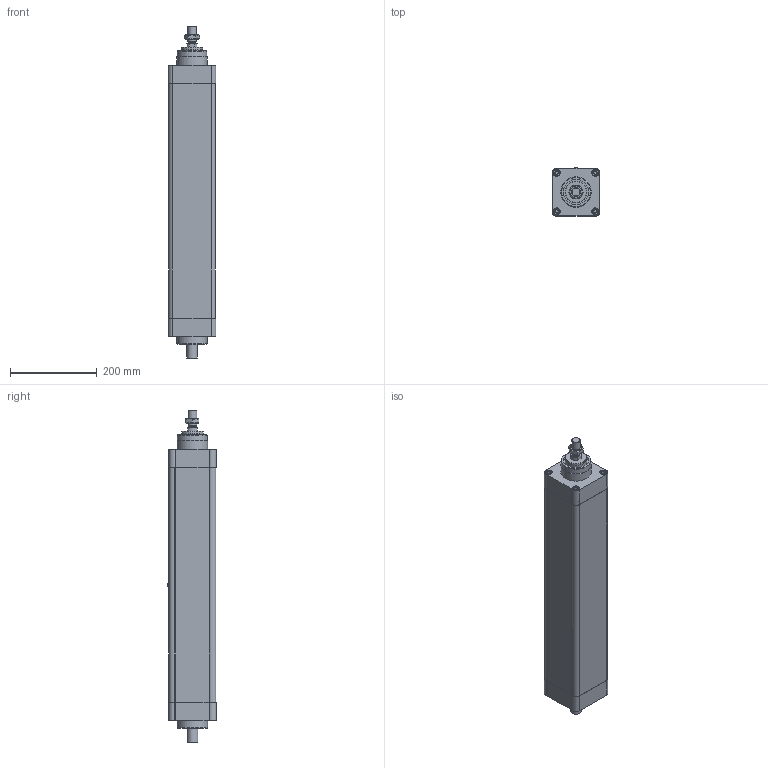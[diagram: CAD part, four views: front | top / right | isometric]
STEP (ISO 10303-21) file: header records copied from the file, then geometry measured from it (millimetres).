
FILE_DESCRIPTION(/* description */ ('STEP AP203'),/* implementation_level */ '2;1');
FILE_NAME(/* name */ 'PNCE 100 BS 4005 400 S(0)',/* time_stamp */ '2025-01-28T16:09:05+01:00',/* author */ ('License CC BY-ND 4.0'),/* organization */ ('CADENAS'),/* preprocessor_version */ 'ST-DEVELOPER v19.3',/* originating_system */ 'PARTsolutions',/* authorisation */ ' ');
FILE_SCHEMA (('CONFIG_CONTROL_DESIGN'));
Length unit declared in the file: millimetre
Products named in the file (6): PNCE 100 BS 4005 400 S(0); PNCE 100_drive cap; PNCE 100 4005 400 S(0)_cylinder profil; PNCE 100_front cap; PNCE 100 4005 400 S 0_piston rod; PNCE 100_nut
Assembly tree (5 placements, depth 2):
  PNCE 100 BS 4005 400 S(0)
    PNCE 100_drive cap
    PNCE 100 4005 400 S(0)_cylinder profil
    PNCE 100_front cap
    PNCE 100 4005 400 S 0_piston rod
    PNCE 100_nut
Bounding box: 110 x 112 x 765 mm (x, y, z)
Volume: 5734873.9 mm3; surface area: 712116.2 mm2
Topology: 5 solids, 5 shells, 258 faces, 556 edges, 366 vertices
Faces by surface type: plane 144, cylinder 84, cone 30
Full cylindrical faces by diameter (mm): 8 x4, 8.376 x8, 10 x8, 11 x4, 11.67 x1, 14.95 x1, 15 x8, 16.5 x8, 18.2 x1, 18.376 x1, 20 x1, 25 x1, 48 x1, 49.8 x1, 50 x2, 58 x1, 69 x1, 70 x2, 86 x4
Entity records: 8202 total; most frequent: CARTESIAN_POINT 1163, DIRECTION 1152, ORIENTED_EDGE 900, AXIS2_PLACEMENT_3D 460, EDGE_CURVE 450, FACE_BOUND 417, EDGE_LOOP 416, VERTEX_POINT 347
